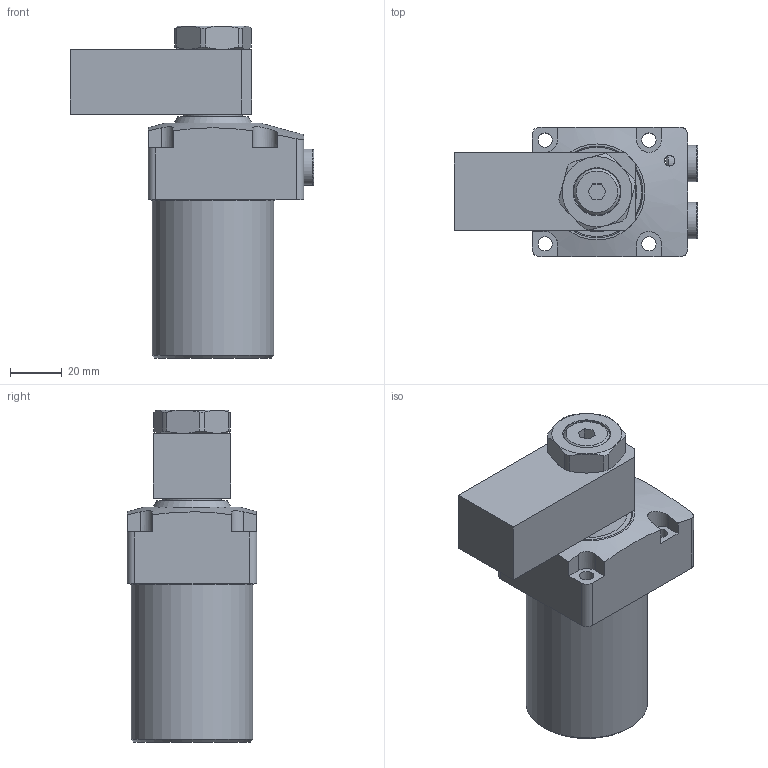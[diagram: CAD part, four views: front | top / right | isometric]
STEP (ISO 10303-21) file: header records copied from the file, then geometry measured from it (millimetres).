
FILE_DESCRIPTION(/* description */ (''),/* implementation_level */ '2;1');
FILE_NAME(/* name */ 'TRC04-L(带锥套-压板).stp',/* time_stamp */ '2025-07-21T11:20:50+08:00',/* author */ (''),/* organization */ (''),/* preprocessor_version */ 'ST-DEVELOPER v16.7',/* originating_system */ 'SIEMENS PLM Software NX 12.0',/* authorisation */ '');
FILE_SCHEMA (('AP203_CONFIGURATION_CONTROLLED_3D_DESIGN_OF_MECHANICAL_PARTS_AND_ASSEMBLIES_MIM_LF { 1 0 10303 403 2 1 2}'));
Length unit declared in the file: millimetre
Products named in the file (1): 123FE38B2C6q4km
Bounding box: 93.8 x 50 x 128 mm (x, y, z)
Volume: 225035.7 mm3; surface area: 46646.8 mm2
Topology: 6 solids, 7 shells, 169 faces, 392 edges, 253 vertices
Faces by surface type: plane 82, cylinder 48, cone 32, torus 6, sphere 1
Full cylindrical faces by diameter (mm): 4 x2, 5.5 x4, 8.3 x2, 8.7 x2, 9.728 x4, 10.2 x2, 14 x2, 16 x1, 17.5 x2, 18 x2, 22.4 x2, 25 x1, 34.4 x1, 47 x1
Entity records: 6180 total; most frequent: CARTESIAN_POINT 1369, DIRECTION 722, ORIENTED_EDGE 662, EDGE_CURVE 331, AXIS2_PLACEMENT_3D 290, EDGE_LOOP 249, VERTEX_POINT 240, ADVANCED_FACE 169
